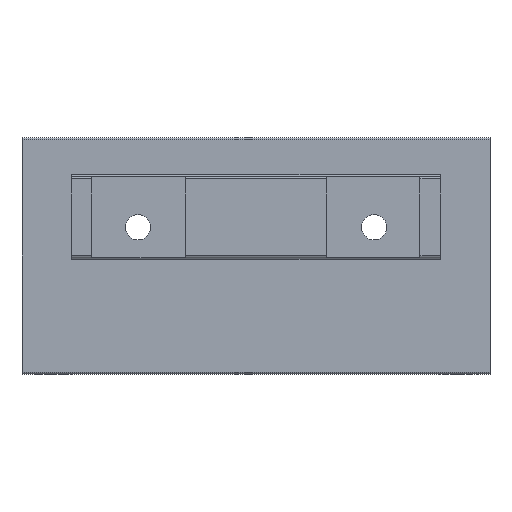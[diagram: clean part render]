
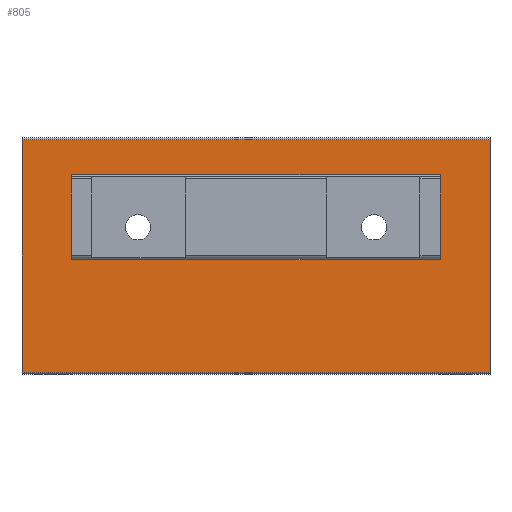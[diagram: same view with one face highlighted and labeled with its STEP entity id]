
A CAD part, left-side view. The second image highlights one B-rep face of the part: STEP entity #805.
In plain terms, the highlighted planar face has unit normal (-1, 0, 0).
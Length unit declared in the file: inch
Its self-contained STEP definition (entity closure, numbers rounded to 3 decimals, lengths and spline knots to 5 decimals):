
#46=DIRECTION('',(0.,0.,-1.));
#47=VECTOR('',#46,1.72);
#48=CARTESIAN_POINT('',(-0.125,-1.7345,1.61));
#49=LINE('',#48,#47);
#50=DIRECTION('',(0.,-1.,0.));
#51=VECTOR('',#50,3.469);
#52=CARTESIAN_POINT('',(-0.125,1.7345,-0.11));
#53=LINE('',#52,#51);
#54=DIRECTION('',(0.,0.,1.));
#55=VECTOR('',#54,1.72);
#56=CARTESIAN_POINT('',(-0.125,1.7345,-0.11));
#57=LINE('',#56,#55);
#58=DIRECTION('',(0.,-1.,0.));
#59=VECTOR('',#58,3.469);
#60=CARTESIAN_POINT('',(-0.125,1.7345,1.61));
#61=LINE('',#60,#59);
#62=DIRECTION('',(0.,1.,0.));
#63=VECTOR('',#62,2.732);
#64=CARTESIAN_POINT('',(-0.125,-1.3655,0.722));
#65=LINE('',#64,#63);
#66=DIRECTION('',(0.,1.,0.));
#67=VECTOR('',#66,2.732);
#68=CARTESIAN_POINT('',(-0.125,-1.3655,1.352));
#69=LINE('',#68,#67);
#70=DIRECTION('',(0.,0.,1.));
#71=VECTOR('',#70,0.63);
#72=CARTESIAN_POINT('',(-0.125,1.3665,0.722));
#73=LINE('',#72,#71);
#341=DIRECTION('',(0.,0.,1.));
#342=VECTOR('',#341,0.63);
#343=CARTESIAN_POINT('',(-0.125,-1.3655,0.722));
#344=LINE('',#343,#342);
#597=CARTESIAN_POINT('',(-0.125,-1.7345,-0.11));
#598=VERTEX_POINT('',#597);
#599=CARTESIAN_POINT('',(-0.125,1.7345,-0.11));
#600=VERTEX_POINT('',#599);
#613=CARTESIAN_POINT('',(-0.125,-1.7345,1.61));
#614=VERTEX_POINT('',#613);
#615=CARTESIAN_POINT('',(-0.125,1.7345,1.61));
#616=VERTEX_POINT('',#615);
#693=CARTESIAN_POINT('',(-0.125,1.3665,0.722));
#694=VERTEX_POINT('',#693);
#695=CARTESIAN_POINT('',(-0.125,-1.3655,0.722));
#696=VERTEX_POINT('',#695);
#697=CARTESIAN_POINT('',(-0.125,1.3665,1.352));
#698=VERTEX_POINT('',#697);
#699=CARTESIAN_POINT('',(-0.125,-1.3655,1.352));
#700=VERTEX_POINT('',#699);
#781=CARTESIAN_POINT('',(-0.125,-1.7345,-0.125));
#782=DIRECTION('',(-1.,0.,0.));
#783=DIRECTION('',(0.,0.,1.));
#784=AXIS2_PLACEMENT_3D('',#781,#782,#783);
#785=PLANE('',#784);
#786=ORIENTED_EDGE('',*,*,#754,.T.);
#788=ORIENTED_EDGE('',*,*,#787,.F.);
#790=ORIENTED_EDGE('',*,*,#789,.T.);
#792=ORIENTED_EDGE('',*,*,#791,.T.);
#793=EDGE_LOOP('',(#786,#788,#790,#792));
#794=FACE_OUTER_BOUND('',#793,.F.);
#796=ORIENTED_EDGE('',*,*,#795,.F.);
#798=ORIENTED_EDGE('',*,*,#797,.T.);
#800=ORIENTED_EDGE('',*,*,#799,.T.);
#802=ORIENTED_EDGE('',*,*,#801,.F.);
#803=EDGE_LOOP('',(#796,#798,#800,#802));
#804=FACE_BOUND('',#803,.F.);
#805=ADVANCED_FACE('',(#794,#804),#785,.T.);
#754=EDGE_CURVE('',#614,#598,#49,.T.);
#787=EDGE_CURVE('',#600,#598,#53,.T.);
#789=EDGE_CURVE('',#600,#616,#57,.T.);
#791=EDGE_CURVE('',#616,#614,#61,.T.);
#795=EDGE_CURVE('',#696,#694,#65,.T.);
#797=EDGE_CURVE('',#696,#700,#344,.T.);
#799=EDGE_CURVE('',#700,#698,#69,.T.);
#801=EDGE_CURVE('',#694,#698,#73,.T.);
